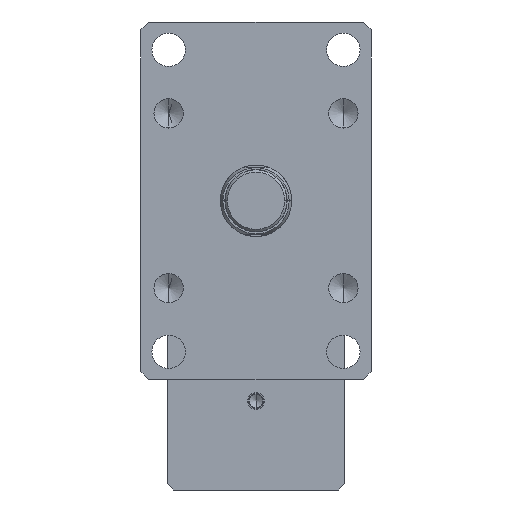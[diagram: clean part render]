
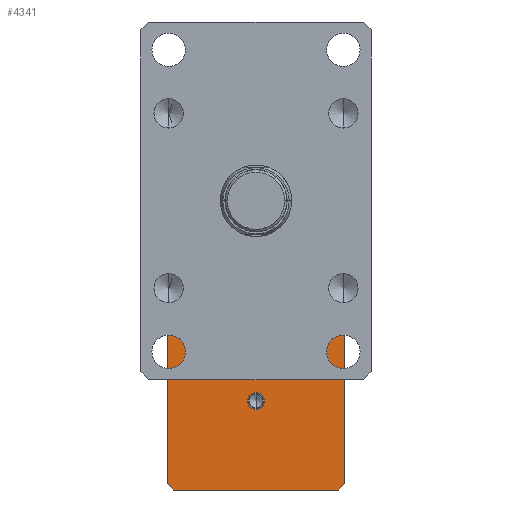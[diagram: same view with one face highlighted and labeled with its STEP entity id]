
A CAD part, left-side view. The second image highlights one B-rep face of the part: STEP entity #4341.
In plain terms, the highlighted planar face has unit normal (-1, 0, 0).
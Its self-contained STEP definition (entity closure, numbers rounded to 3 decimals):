
#541 = EDGE_LOOP ( 'NONE', ( #5243, #6600 ) ) ;
#576 = EDGE_CURVE ( 'NONE', #5536, #12016, #10436, .T. ) ;
#848 = FACE_OUTER_BOUND ( 'NONE', #1338, .T. ) ;
#997 = DIRECTION ( 'NONE',  ( -1., 0., 0. ) ) ;
#1004 = ORIENTED_EDGE ( 'NONE', *, *, #7627, .F. ) ;
#1091 = LINE ( 'NONE', #8041, #6014 ) ;
#1338 = EDGE_LOOP ( 'NONE', ( #6511, #5567, #11668, #8524, #2741, #11602, #1004, #2521 ) ) ;
#1366 = CIRCLE ( 'NONE', #1388, 5.143 ) ;
#1388 = AXIS2_PLACEMENT_3D ( 'NONE', #9138, #997, #5249 ) ;
#1420 = DIRECTION ( 'NONE',  ( 0., 1., 0. ) ) ;
#1495 = CARTESIAN_POINT ( 'NONE',  ( 425., -56., -182. ) ) ;
#1523 = VECTOR ( 'NONE', #7593, 1000. ) ;
#1740 = CIRCLE ( 'NONE', #11005, 5.143 ) ;
#1796 = CARTESIAN_POINT ( 'NONE',  ( 425., 56., -178. ) ) ;
#2095 = CARTESIAN_POINT ( 'NONE',  ( 425., -52., -70. ) ) ;
#2521 = ORIENTED_EDGE ( 'NONE', *, *, #3402, .T. ) ;
#2560 = VECTOR ( 'NONE', #7360, 1000. ) ;
#2740 = DIRECTION ( 'NONE',  ( 0., -0.707, -0.707 ) ) ;
#2741 = ORIENTED_EDGE ( 'NONE', *, *, #3600, .F. ) ;
#2851 = VERTEX_POINT ( 'NONE', #4745 ) ;
#3042 = CARTESIAN_POINT ( 'NONE',  ( 425., 0., -120.857 ) ) ;
#3059 = VECTOR ( 'NONE', #11603, 1000. ) ;
#3117 = FACE_BOUND ( 'NONE', #541, .T. ) ;
#3179 = DIRECTION ( 'NONE',  ( -1., 0., 0. ) ) ;
#3387 = VERTEX_POINT ( 'NONE', #1796 ) ;
#3398 = VERTEX_POINT ( 'NONE', #3758 ) ;
#3402 = EDGE_CURVE ( 'NONE', #5432, #5536, #6549, .T. ) ;
#3437 = DIRECTION ( 'NONE',  ( 1., 0., 0. ) ) ;
#3600 = EDGE_CURVE ( 'NONE', #3387, #3398, #12579, .T. ) ;
#3620 = VERTEX_POINT ( 'NONE', #3042 ) ;
#3758 = CARTESIAN_POINT ( 'NONE',  ( 425., 56., -74. ) ) ;
#4285 = CARTESIAN_POINT ( 'NONE',  ( 425., -56., -74. ) ) ;
#4341 = ADVANCED_FACE ( 'NONE', ( #3117, #848 ), #5381, .F. ) ;
#4690 = CARTESIAN_POINT ( 'NONE',  ( 425., 52., -182. ) ) ;
#4696 = VECTOR ( 'NONE', #9912, 1000. ) ;
#4745 = CARTESIAN_POINT ( 'NONE',  ( 425., 52., -70. ) ) ;
#4993 = CARTESIAN_POINT ( 'NONE',  ( 425., 56., -182. ) ) ;
#5243 = ORIENTED_EDGE ( 'NONE', *, *, #5650, .F. ) ;
#5249 = DIRECTION ( 'NONE',  ( 0., 0., 1. ) ) ;
#5381 = PLANE ( 'NONE',  #6534 ) ;
#5432 = VERTEX_POINT ( 'NONE', #7959 ) ;
#5437 = VERTEX_POINT ( 'NONE', #2095 ) ;
#5536 = VERTEX_POINT ( 'NONE', #7153 ) ;
#5567 = ORIENTED_EDGE ( 'NONE', *, *, #12537, .T. ) ;
#5650 = EDGE_CURVE ( 'NONE', #3620, #7086, #1740, .T. ) ;
#5749 = CARTESIAN_POINT ( 'NONE',  ( 425., -52., -182. ) ) ;
#5837 = VERTEX_POINT ( 'NONE', #11567 ) ;
#6005 = LINE ( 'NONE', #10654, #3059 ) ;
#6014 = VECTOR ( 'NONE', #9031, 1000. ) ;
#6434 = VECTOR ( 'NONE', #2740, 1000. ) ;
#6511 = ORIENTED_EDGE ( 'NONE', *, *, #576, .T. ) ;
#6534 = AXIS2_PLACEMENT_3D ( 'NONE', #7351, #3437, #10346 ) ;
#6549 = LINE ( 'NONE', #5749, #11803 ) ;
#6600 = ORIENTED_EDGE ( 'NONE', *, *, #10099, .F. ) ;
#6738 = EDGE_CURVE ( 'NONE', #2851, #3398, #6005, .T. ) ;
#7086 = VERTEX_POINT ( 'NONE', #12381 ) ;
#7153 = CARTESIAN_POINT ( 'NONE',  ( 425., -56., -178. ) ) ;
#7351 = CARTESIAN_POINT ( 'NONE',  ( 425., -56., -182. ) ) ;
#7360 = DIRECTION ( 'NONE',  ( 0., 0., 1. ) ) ;
#7593 = DIRECTION ( 'NONE',  ( 0., 1., 0. ) ) ;
#7627 = EDGE_CURVE ( 'NONE', #5432, #5837, #10396, .T. ) ;
#7959 = CARTESIAN_POINT ( 'NONE',  ( 425., -52., -182. ) ) ;
#8041 = CARTESIAN_POINT ( 'NONE',  ( 425., -56., -74. ) ) ;
#8524 = ORIENTED_EDGE ( 'NONE', *, *, #6738, .T. ) ;
#9028 = LINE ( 'NONE', #4690, #6434 ) ;
#9031 = DIRECTION ( 'NONE',  ( 0., 0.707, 0.707 ) ) ;
#9076 = CARTESIAN_POINT ( 'NONE',  ( 425., 0., -126. ) ) ;
#9138 = CARTESIAN_POINT ( 'NONE',  ( 425., 0., -126. ) ) ;
#9360 = LINE ( 'NONE', #11543, #1523 ) ;
#9744 = VECTOR ( 'NONE', #1420, 1000. ) ;
#9800 = EDGE_CURVE ( 'NONE', #5437, #2851, #9360, .T. ) ;
#9912 = DIRECTION ( 'NONE',  ( 0., 0., 1. ) ) ;
#10099 = EDGE_CURVE ( 'NONE', #7086, #3620, #1366, .T. ) ;
#10100 = DIRECTION ( 'NONE',  ( 0., 0., 1. ) ) ;
#10346 = DIRECTION ( 'NONE',  ( 0., 0., -1. ) ) ;
#10396 = LINE ( 'NONE', #12240, #9744 ) ;
#10400 = EDGE_CURVE ( 'NONE', #3387, #5837, #9028, .T. ) ;
#10436 = LINE ( 'NONE', #1495, #2560 ) ;
#10654 = CARTESIAN_POINT ( 'NONE',  ( 425., 56., -74. ) ) ;
#10672 = DIRECTION ( 'NONE',  ( 0., -0.707, 0.707 ) ) ;
#11005 = AXIS2_PLACEMENT_3D ( 'NONE', #9076, #3179, #10100 ) ;
#11543 = CARTESIAN_POINT ( 'NONE',  ( 425., -56., -70. ) ) ;
#11567 = CARTESIAN_POINT ( 'NONE',  ( 425., 52., -182. ) ) ;
#11602 = ORIENTED_EDGE ( 'NONE', *, *, #10400, .T. ) ;
#11603 = DIRECTION ( 'NONE',  ( 0., 0.707, -0.707 ) ) ;
#11668 = ORIENTED_EDGE ( 'NONE', *, *, #9800, .T. ) ;
#11803 = VECTOR ( 'NONE', #10672, 1000. ) ;
#12016 = VERTEX_POINT ( 'NONE', #4285 ) ;
#12240 = CARTESIAN_POINT ( 'NONE',  ( 425., -56., -182. ) ) ;
#12381 = CARTESIAN_POINT ( 'NONE',  ( 425., 0., -131.143 ) ) ;
#12537 = EDGE_CURVE ( 'NONE', #12016, #5437, #1091, .T. ) ;
#12579 = LINE ( 'NONE', #4993, #4696 ) ;
